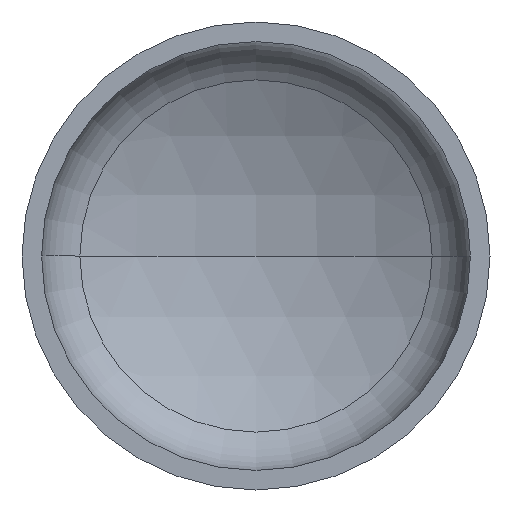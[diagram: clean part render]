
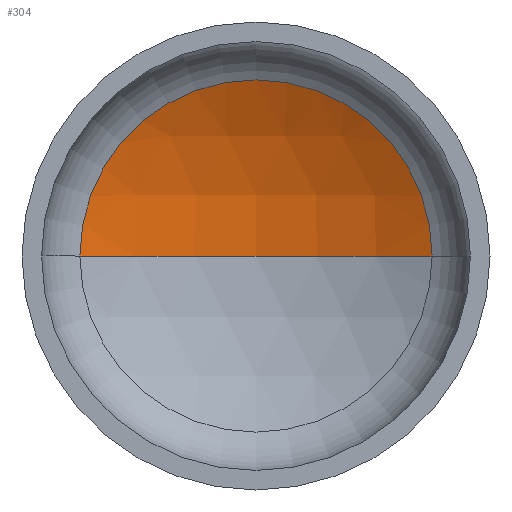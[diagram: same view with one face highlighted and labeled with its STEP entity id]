
A CAD part, front view. The second image highlights one B-rep face of the part: STEP entity #304.
In plain terms, the highlighted spherical face has radius 880 mm.
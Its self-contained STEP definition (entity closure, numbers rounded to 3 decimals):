
#4 = AXIS2_PLACEMENT_3D ( 'NONE', #261, #173, #374 ) ;
#5 = EDGE_LOOP ( 'NONE', ( #106, #94, #36 ) ) ;
#8 = VERTEX_POINT ( 'NONE', #258 ) ;
#12 = DIRECTION ( 'NONE',  ( 0., -1., 0. ) ) ;
#16 = AXIS2_PLACEMENT_3D ( 'NONE', #202, #406, #137 ) ;
#17 = CARTESIAN_POINT ( 'NONE',  ( 0., 290.015, 0. ) ) ;
#24 = CARTESIAN_POINT ( 'NONE',  ( 413.972, 290.015, 0. ) ) ;
#36 = ORIENTED_EDGE ( 'NONE', *, *, #113, .T. ) ;
#41 = AXIS2_PLACEMENT_3D ( 'NONE', #205, #212, #213 ) ;
#42 = AXIS2_PLACEMENT_3D ( 'NONE', #17, #12, #298 ) ;
#45 = CIRCLE ( 'NONE', #4, 880. ) ;
#88 = VERTEX_POINT ( 'NONE', #341 ) ;
#90 = FACE_OUTER_BOUND ( 'NONE', #5, .T. ) ;
#94 = ORIENTED_EDGE ( 'NONE', *, *, #136, .T. ) ;
#106 = ORIENTED_EDGE ( 'NONE', *, *, #350, .F. ) ;
#113 = EDGE_CURVE ( 'NONE', #117, #8, #153, .T. ) ;
#117 = VERTEX_POINT ( 'NONE', #24 ) ;
#136 = EDGE_CURVE ( 'NONE', #88, #117, #385, .T. ) ;
#137 = DIRECTION ( 'NONE',  ( -1., 0., 0. ) ) ;
#153 = CIRCLE ( 'NONE', #42, 413.972 ) ;
#173 = DIRECTION ( 'NONE',  ( 0., 0., 1. ) ) ;
#202 = CARTESIAN_POINT ( 'NONE',  ( 0., -486.533, 0. ) ) ;
#205 = CARTESIAN_POINT ( 'NONE',  ( 0., -486.533, 0. ) ) ;
#212 = DIRECTION ( 'NONE',  ( 0., 0., -1. ) ) ;
#213 = DIRECTION ( 'NONE',  ( -1., 0., 0. ) ) ;
#252 = SPHERICAL_SURFACE ( 'NONE', #16, 880. ) ;
#258 = CARTESIAN_POINT ( 'NONE',  ( -413.972, 290.015, 0. ) ) ;
#261 = CARTESIAN_POINT ( 'NONE',  ( 0., -486.533, 0. ) ) ;
#298 = DIRECTION ( 'NONE',  ( 1., 0., 0. ) ) ;
#304 = ADVANCED_FACE ( 'NONE', ( #90 ), #252, .F. ) ;
#341 = CARTESIAN_POINT ( 'NONE',  ( 0., 393.467, 0. ) ) ;
#350 = EDGE_CURVE ( 'NONE', #88, #8, #45, .T. ) ;
#374 = DIRECTION ( 'NONE',  ( 1., 0., 0. ) ) ;
#385 = CIRCLE ( 'NONE', #41, 880. ) ;
#406 = DIRECTION ( 'NONE',  ( 0., 0., -1. ) ) ;
